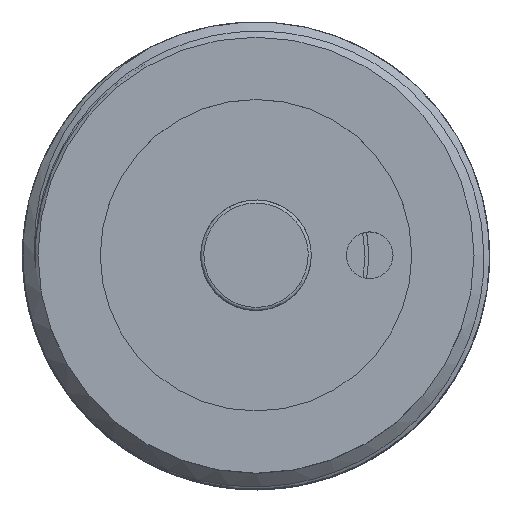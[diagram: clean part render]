
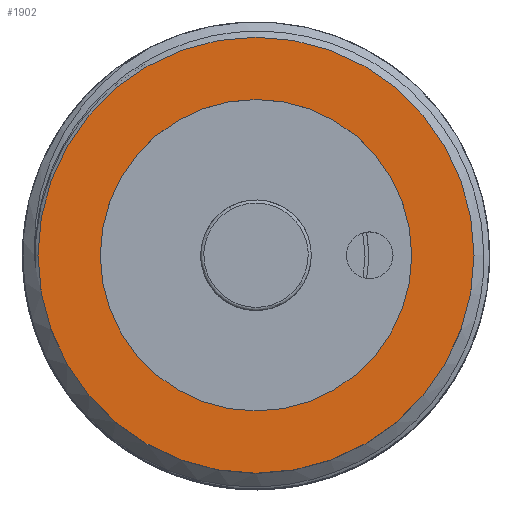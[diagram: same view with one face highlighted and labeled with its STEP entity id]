
A CAD part, top view. The second image highlights one B-rep face of the part: STEP entity #1902.
In plain terms, the highlighted planar face has unit normal (0, 0, 1).
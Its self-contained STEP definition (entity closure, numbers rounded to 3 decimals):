
#1902=ADVANCED_FACE('',(#2330,#2331),#2064,.F.);
#2064=PLANE('',#6126);
#2330=FACE_BOUND('',#2633,.T.);
#2331=FACE_BOUND('',#2634,.T.);
#2633=EDGE_LOOP('',(#4773));
#2634=EDGE_LOOP('',(#4774));
#4773=ORIENTED_EDGE('',*,*,#5834,.T.);
#4774=ORIENTED_EDGE('',*,*,#5837,.F.);
#5212=VERTEX_POINT('',#14352);
#5215=VERTEX_POINT('',#14359);
#5834=EDGE_CURVE('',#5212,#5212,#5890,.T.);
#5837=EDGE_CURVE('',#5215,#5215,#5893,.T.);
#5890=CIRCLE('',#6119,14.);
#5893=CIRCLE('',#6123,10.);
#6119=AXIS2_PLACEMENT_3D('',#14351,#7049,#7050);
#6123=AXIS2_PLACEMENT_3D('',#14358,#7057,#7058);
#6126=AXIS2_PLACEMENT_3D('',#14362,#7063,#7064);
#7049=DIRECTION('',(0.,0.,1.));
#7050=DIRECTION('',(0.,1.,0.));
#7057=DIRECTION('',(0.,0.,1.));
#7058=DIRECTION('',(0.,-1.,0.));
#7063=DIRECTION('',(0.,0.,-1.));
#7064=DIRECTION('',(0.,1.,0.));
#14351=CARTESIAN_POINT('',(16.445,17.291,1.25));
#14352=CARTESIAN_POINT('',(16.445,31.291,1.25));
#14358=CARTESIAN_POINT('',(16.445,17.291,1.25));
#14359=CARTESIAN_POINT('',(16.445,7.291,1.25));
#14362=CARTESIAN_POINT('',(16.445,17.291,1.25));
